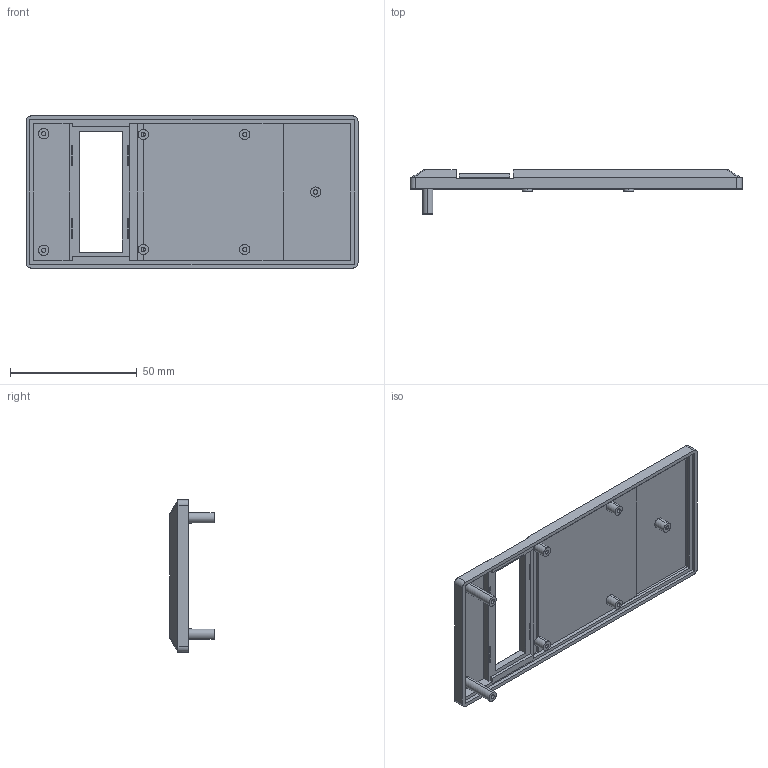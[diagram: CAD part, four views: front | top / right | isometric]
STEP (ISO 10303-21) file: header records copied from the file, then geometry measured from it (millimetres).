
FILE_DESCRIPTION (( 'STEP AP214' ), '1' );
FILE_NAME ('Tapa PP26.STEP', '2018-07-10T12:06:48', ( 'aaa' ), ( '' ), 'SwSTEP 2.0', 'SolidWorks 2013', '' );
FILE_SCHEMA (( 'AUTOMOTIVE_DESIGN' ));
Length unit declared in the file: millimetre
Products named in the file (1): Tapa PP26
Bounding box: 131 x 17.4 x 60 mm (x, y, z)
Volume: 19866.7 mm3; surface area: 21264.2 mm2
Topology: 1 solids, 1 shells, 149 faces, 392 edges, 254 vertices
Faces by surface type: plane 113, cylinder 32, bspline 4
Entity records: 4967 total; most frequent: CARTESIAN_POINT 1056, ORIENTED_EDGE 784, DIRECTION 720, EDGE_CURVE 392, VECTOR 308, LINE 308, VERTEX_POINT 254, AXIS2_PLACEMENT_3D 206
